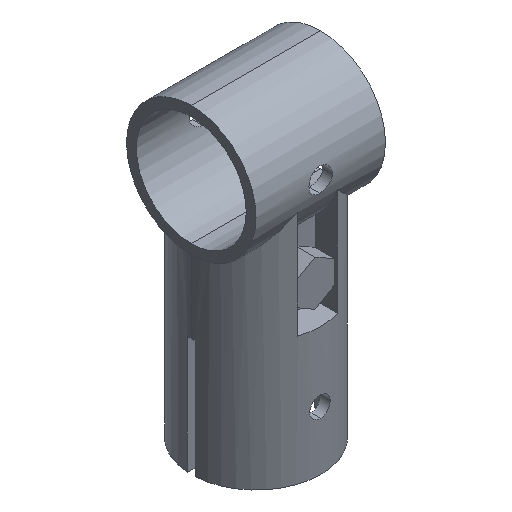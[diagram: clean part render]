
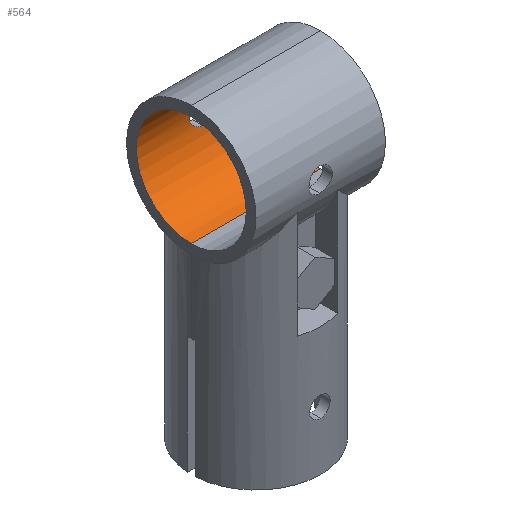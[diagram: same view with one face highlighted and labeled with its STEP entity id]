
A CAD part, isometric view. The second image highlights one B-rep face of the part: STEP entity #564.
In plain terms, the highlighted cylindrical face has radius 14 mm (diameter 28 mm), a partial arc.
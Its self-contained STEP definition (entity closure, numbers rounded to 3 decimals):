
#13 = CARTESIAN_POINT ( 'NONE',  ( -1.504, 13.756, 2.603 ) ) ;
#14 = EDGE_LOOP ( 'NONE', ( #1103, #1024 ) ) ;
#21 = CARTESIAN_POINT ( 'NONE',  ( -2.602, 13.92, -1.506 ) ) ;
#105 = CARTESIAN_POINT ( 'NONE',  ( 3., 14., 0.197 ) ) ;
#120 = CARTESIAN_POINT ( 'NONE',  ( -1.831, 13.796, -2.385 ) ) ;
#128 = CARTESIAN_POINT ( 'NONE',  ( -1.984, 13.817, 2.259 ) ) ;
#130 = CARTESIAN_POINT ( 'NONE',  ( 2.922, 13.983, -0.788 ) ) ;
#138 = CARTESIAN_POINT ( 'NONE',  ( -2.696, 13.938, -1.331 ) ) ;
#139 = CARTESIAN_POINT ( 'NONE',  ( 2.694, 13.937, -1.334 ) ) ;
#167 = CARTESIAN_POINT ( 'NONE',  ( 0., 13.675, -3. ) ) ;
#192 = CARTESIAN_POINT ( 'NONE',  ( -0.781, 13.696, -2.903 ) ) ;
#244 = CARTESIAN_POINT ( 'NONE',  ( 2.26, 13.86, 1.982 ) ) ;
#249 = CARTESIAN_POINT ( 'NONE',  ( 1.505, 13.756, -2.603 ) ) ;
#262 = CARTESIAN_POINT ( 'NONE',  ( -0.778, 13.696, 2.904 ) ) ;
#266 = CARTESIAN_POINT ( 'NONE',  ( 1.982, 13.817, -2.261 ) ) ;
#267 = DIRECTION ( 'NONE',  ( 0., 0., -1. ) ) ;
#269 = CARTESIAN_POINT ( 'NONE',  ( -0.199, 13.675, 3. ) ) ;
#278 = CARTESIAN_POINT ( 'NONE',  ( -3., 14., 0.197 ) ) ;
#279 = CARTESIAN_POINT ( 'NONE',  ( 2.696, 13.938, 1.33 ) ) ;
#287 = CARTESIAN_POINT ( 'NONE',  ( -2.26, 13.86, 1.983 ) ) ;
#299 = DIRECTION ( 'NONE',  ( -1., 0., 0. ) ) ;
#301 = CARTESIAN_POINT ( 'NONE',  ( 0., 13.675, -3. ) ) ;
#374 = CARTESIAN_POINT ( 'NONE',  ( -16.5, 0., 0. ) ) ;
#377 = B_SPLINE_CURVE_WITH_KNOTS ( 'NONE', 3,
 ( #1543, #1205, #818, #834, #249, #1402, #266, #958, #809, #1852, #139, #130, #1548, #105, #1111, #1405, #1269, #279, #412, #1397, #244, #1832, #1234, #1093, #1676, #384, #1102, #395 ),
 .UNSPECIFIED., .F., .F.,
 ( 4, 2, 2, 2, 2, 2, 2, 2, 2, 2, 2, 2, 2, 4 ),
 ( 0.009, 0.011, 0.011, 0.012, 0.012, 0.013, 0.014, 0.015, 0.015, 0.016, 0.016, 0.018, 0.018, 0.019 ),
 .UNSPECIFIED. ) ;
#384 = CARTESIAN_POINT ( 'NONE',  ( 0.395, 13.679, 2.98 ) ) ;
#395 = CARTESIAN_POINT ( 'NONE',  ( 0., 13.675, 3. ) ) ;
#411 = EDGE_CURVE ( 'NONE', #1508, #453, #377, .T. ) ;
#412 = CARTESIAN_POINT ( 'NONE',  ( 2.604, 13.92, 1.502 ) ) ;
#423 = ORIENTED_EDGE ( 'NONE', *, *, #475, .T. ) ;
#433 = FACE_OUTER_BOUND ( 'NONE', #1455, .T. ) ;
#453 = VERTEX_POINT ( 'NONE', #605 ) ;
#462 = CARTESIAN_POINT ( 'NONE',  ( -0.196, 13.675, -3. ) ) ;
#475 = EDGE_CURVE ( 'NONE', #1235, #1497, #1587, .T. ) ;
#554 = AXIS2_PLACEMENT_3D ( 'NONE', #967, #819, #267 ) ;
#564 = ADVANCED_FACE ( 'NONE', ( #433, #1294 ), #1728, .F. ) ;
#573 = CARTESIAN_POINT ( 'NONE',  ( -2.904, 13.98, 0.78 ) ) ;
#605 = CARTESIAN_POINT ( 'NONE',  ( 0., 13.675, 3. ) ) ;
#609 = DIRECTION ( 'NONE',  ( 0., 0., 1. ) ) ;
#679 = CARTESIAN_POINT ( 'NONE',  ( -1.506, 13.757, -2.602 ) ) ;
#697 = CARTESIAN_POINT ( 'NONE',  ( -2.981, 13.996, 0.393 ) ) ;
#727 = LINE ( 'NONE', #1197, #1432 ) ;
#757 = B_SPLINE_CURVE_WITH_KNOTS ( 'NONE', 3,
 ( #987, #269, #1582, #262, #1288, #1723, #13, #1736, #128, #287, #1300, #977, #846, #1431, #573, #697, #278, #1268, #837, #1744, #1421, #138, #21, #996, #820, #1404, #120, #679, #1258, #1753, #192, #769, #462, #167 ),
 .UNSPECIFIED., .F., .F.,
 ( 4, 2, 2, 2, 2, 2, 2, 2, 2, 2, 2, 2, 2, 2, 2, 2, 4 ),
 ( 0., 0.001, 0.001, 0.002, 0.002, 0.003, 0.004, 0.004, 0.005, 0.005, 0.006, 0.006, 0.007, 0.008, 0.008, 0.009, 0.009 ),
 .UNSPECIFIED. ) ;
#759 = VERTEX_POINT ( 'NONE', #784 ) ;
#760 = CARTESIAN_POINT ( 'NONE',  ( -16.5, 0., -14. ) ) ;
#769 = CARTESIAN_POINT ( 'NONE',  ( -0.395, 13.679, -2.98 ) ) ;
#784 = CARTESIAN_POINT ( 'NONE',  ( 16.5, 0., -14. ) ) ;
#809 = CARTESIAN_POINT ( 'NONE',  ( 2.385, 13.881, -1.831 ) ) ;
#818 = CARTESIAN_POINT ( 'NONE',  ( 0.788, 13.693, -2.921 ) ) ;
#819 = DIRECTION ( 'NONE',  ( 1., 0., 0. ) ) ;
#820 = CARTESIAN_POINT ( 'NONE',  ( -2.26, 13.86, -1.982 ) ) ;
#834 = CARTESIAN_POINT ( 'NONE',  ( 1.33, 13.738, -2.696 ) ) ;
#837 = CARTESIAN_POINT ( 'NONE',  ( -2.98, 13.996, -0.395 ) ) ;
#846 = CARTESIAN_POINT ( 'NONE',  ( -2.696, 13.938, 1.331 ) ) ;
#903 = EDGE_CURVE ( 'NONE', #759, #1235, #918, .T. ) ;
#918 = CIRCLE ( 'NONE', #554, 14. ) ;
#958 = CARTESIAN_POINT ( 'NONE',  ( 2.258, 13.859, -1.984 ) ) ;
#967 = CARTESIAN_POINT ( 'NONE',  ( 16.5, 0., 0. ) ) ;
#977 = CARTESIAN_POINT ( 'NONE',  ( -2.603, 13.92, 1.504 ) ) ;
#987 = CARTESIAN_POINT ( 'NONE',  ( 0., 13.675, 3. ) ) ;
#996 = CARTESIAN_POINT ( 'NONE',  ( -2.385, 13.881, -1.83 ) ) ;
#1024 = ORIENTED_EDGE ( 'NONE', *, *, #411, .F. ) ;
#1029 = AXIS2_PLACEMENT_3D ( 'NONE', #1591, #1760, #609 ) ;
#1040 = CARTESIAN_POINT ( 'NONE',  ( -16.5, 0., 14. ) ) ;
#1090 = DIRECTION ( 'NONE',  ( 0., 0., -1. ) ) ;
#1093 = CARTESIAN_POINT ( 'NONE',  ( 0.972, 13.708, 2.845 ) ) ;
#1102 = CARTESIAN_POINT ( 'NONE',  ( 0.199, 13.675, 3. ) ) ;
#1103 = ORIENTED_EDGE ( 'NONE', *, *, #1752, .F. ) ;
#1111 = CARTESIAN_POINT ( 'NONE',  ( 2.981, 13.996, 0.392 ) ) ;
#1124 = CIRCLE ( 'NONE', #1525, 14. ) ;
#1135 = VERTEX_POINT ( 'NONE', #760 ) ;
#1162 = ORIENTED_EDGE ( 'NONE', *, *, #903, .T. ) ;
#1197 = CARTESIAN_POINT ( 'NONE',  ( 16.5, 0., -14. ) ) ;
#1205 = CARTESIAN_POINT ( 'NONE',  ( 0.392, 13.675, -3. ) ) ;
#1234 = CARTESIAN_POINT ( 'NONE',  ( 1.514, 13.754, 2.619 ) ) ;
#1235 = VERTEX_POINT ( 'NONE', #1740 ) ;
#1258 = CARTESIAN_POINT ( 'NONE',  ( -1.331, 13.738, -2.696 ) ) ;
#1268 = CARTESIAN_POINT ( 'NONE',  ( -3., 14., -0.195 ) ) ;
#1269 = CARTESIAN_POINT ( 'NONE',  ( 2.846, 13.968, 0.968 ) ) ;
#1288 = CARTESIAN_POINT ( 'NONE',  ( -0.969, 13.708, 2.846 ) ) ;
#1291 = CARTESIAN_POINT ( 'NONE',  ( 16.5, 0., 14. ) ) ;
#1294 = FACE_BOUND ( 'NONE', #14, .T. ) ;
#1300 = CARTESIAN_POINT ( 'NONE',  ( -2.384, 13.881, 1.832 ) ) ;
#1343 = DIRECTION ( 'NONE',  ( -1., 0., 0. ) ) ;
#1397 = CARTESIAN_POINT ( 'NONE',  ( 2.386, 13.881, 1.829 ) ) ;
#1402 = CARTESIAN_POINT ( 'NONE',  ( 1.831, 13.796, -2.384 ) ) ;
#1404 = CARTESIAN_POINT ( 'NONE',  ( -1.982, 13.817, -2.261 ) ) ;
#1405 = CARTESIAN_POINT ( 'NONE',  ( 2.904, 13.98, 0.776 ) ) ;
#1421 = CARTESIAN_POINT ( 'NONE',  ( -2.847, 13.968, -0.967 ) ) ;
#1431 = CARTESIAN_POINT ( 'NONE',  ( -2.846, 13.968, 0.97 ) ) ;
#1432 = VECTOR ( 'NONE', #1343, 1000. ) ;
#1455 = EDGE_LOOP ( 'NONE', ( #1737, #1162, #423, #1537 ) ) ;
#1497 = VERTEX_POINT ( 'NONE', #1040 ) ;
#1508 = VERTEX_POINT ( 'NONE', #301 ) ;
#1525 = AXIS2_PLACEMENT_3D ( 'NONE', #374, #1815, #1090 ) ;
#1537 = ORIENTED_EDGE ( 'NONE', *, *, #1623, .F. ) ;
#1543 = CARTESIAN_POINT ( 'NONE',  ( 0., 13.675, -3. ) ) ;
#1548 = CARTESIAN_POINT ( 'NONE',  ( 3., 14., -0.397 ) ) ;
#1582 = CARTESIAN_POINT ( 'NONE',  ( -0.394, 13.679, 2.98 ) ) ;
#1587 = LINE ( 'NONE', #1291, #1667 ) ;
#1591 = CARTESIAN_POINT ( 'NONE',  ( 16.5, 0., 0. ) ) ;
#1623 = EDGE_CURVE ( 'NONE', #1135, #1497, #1124, .T. ) ;
#1667 = VECTOR ( 'NONE', #299, 1000. ) ;
#1676 = CARTESIAN_POINT ( 'NONE',  ( 0.782, 13.696, 2.903 ) ) ;
#1723 = CARTESIAN_POINT ( 'NONE',  ( -1.332, 13.738, 2.695 ) ) ;
#1728 = CYLINDRICAL_SURFACE ( 'NONE', #1029, 14. ) ;
#1736 = CARTESIAN_POINT ( 'NONE',  ( -1.83, 13.796, 2.385 ) ) ;
#1737 = ORIENTED_EDGE ( 'NONE', *, *, #1843, .F. ) ;
#1740 = CARTESIAN_POINT ( 'NONE',  ( 16.5, 0., 14. ) ) ;
#1744 = CARTESIAN_POINT ( 'NONE',  ( -2.904, 13.98, -0.78 ) ) ;
#1752 = EDGE_CURVE ( 'NONE', #453, #1508, #757, .T. ) ;
#1753 = CARTESIAN_POINT ( 'NONE',  ( -0.968, 13.708, -2.846 ) ) ;
#1760 = DIRECTION ( 'NONE',  ( -1., 0., 0. ) ) ;
#1815 = DIRECTION ( 'NONE',  ( 1., 0., 0. ) ) ;
#1832 = CARTESIAN_POINT ( 'NONE',  ( 1.847, 13.796, 2.396 ) ) ;
#1843 = EDGE_CURVE ( 'NONE', #759, #1135, #727, .T. ) ;
#1852 = CARTESIAN_POINT ( 'NONE',  ( 2.602, 13.92, -1.506 ) ) ;
